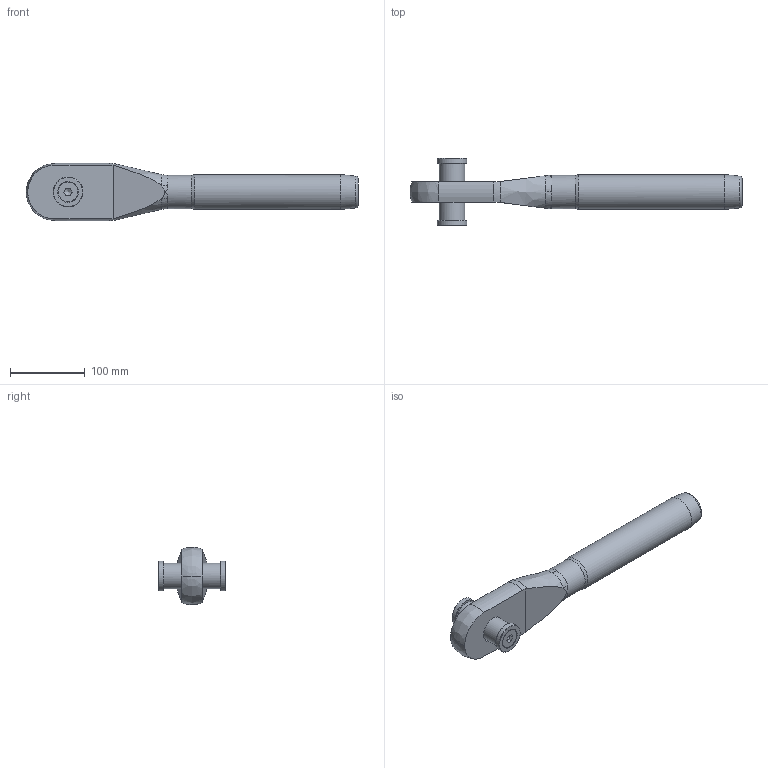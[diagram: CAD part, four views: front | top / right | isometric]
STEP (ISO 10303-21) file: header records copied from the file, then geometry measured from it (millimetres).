
FILE_DESCRIPTION(/* description */ (''),/* implementation_level */ '2;1');
FILE_NAME(/* name */ 'MCC 24_1,4418',/* time_stamp */ '2023-05-23T15:40:35+02:00',/* author */ (''),/* organization */ (''),/* preprocessor_version */ 'ST-DEVELOPER v16.5',/* originating_system */ 'Rhino 7.22',/* authorisation */ '');
FILE_SCHEMA (('CONFIG_CONTROL_DESIGN'));
Length unit declared in the file: millimetre
Products named in the file (1): Document
Bounding box: 444.5 x 89.67 x 76.97 mm (x, y, z)
Volume: 847621.3 mm3; surface area: 97486.5 mm2
Topology: 6 solids, 6 shells, 74 faces, 202 edges, 134 vertices
Faces by surface type: bspline 31, plane 27, cylinder 16
Full cylindrical faces by diameter (mm): 11.835 x2, 14 x2, 14.5 x2, 26.52 x2, 34 x1, 36 x1, 40 x2, 44.5 x1, 46.8 x1
Entity records: 3241 total; most frequent: CARTESIAN_POINT 1990, ORIENTED_EDGE 384, EDGE_CURVE 192, VERTEX_POINT 134, EDGE_LOOP 84, ADVANCED_FACE 74, FACE_OUTER_BOUND 74, B_SPLINE_CURVE_WITH_KNOTS 64
